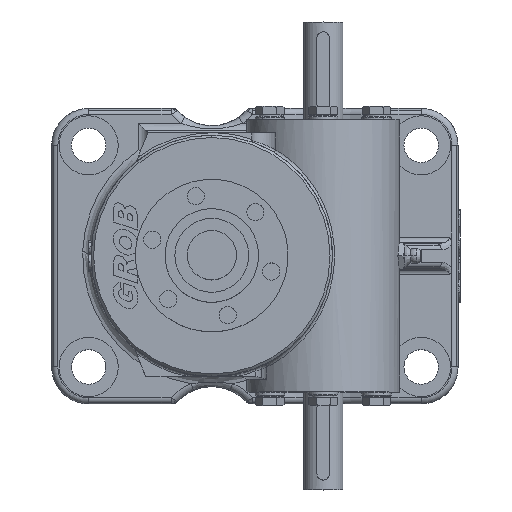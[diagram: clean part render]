
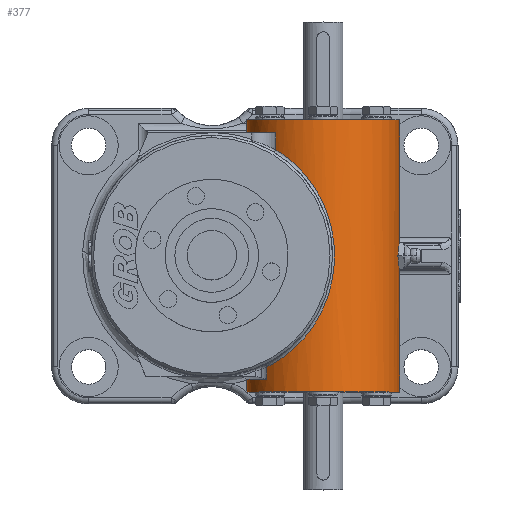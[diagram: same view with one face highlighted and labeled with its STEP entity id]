
A CAD part, top view. The second image highlights one B-rep face of the part: STEP entity #377.
In plain terms, the highlighted cylindrical face has radius 31 mm (diameter 62 mm), a partial arc.
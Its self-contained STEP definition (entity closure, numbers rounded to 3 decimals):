
#377=ADVANCED_FACE('',(#1383),#1384,.T.);
#1383=FACE_OUTER_BOUND('',#3297,.T.);
#1384=CYLINDRICAL_SURFACE('',#3298,31.0);
#3297=EDGE_LOOP('',(#7679,#7680,#7681,#7682,#7683,#7684,#7685,#7686,#7687,#7688,#7689,#7690,#7691,#7692,#7693,#7694,#7695,#7696,#7697));
#3298=AXIS2_PLACEMENT_3D('',#7698,#7699,#7700);
#7679=ORIENTED_EDGE('',*,*,#11177,.T.);
#7680=ORIENTED_EDGE('',*,*,#11616,.T.);
#7681=ORIENTED_EDGE('',*,*,#11609,.T.);
#7682=ORIENTED_EDGE('',*,*,#11342,.T.);
#7683=ORIENTED_EDGE('',*,*,#11608,.T.);
#7684=ORIENTED_EDGE('',*,*,#11603,.T.);
#7685=ORIENTED_EDGE('',*,*,#11627,.T.);
#7686=ORIENTED_EDGE('',*,*,#11196,.T.);
#7687=ORIENTED_EDGE('',*,*,#11496,.T.);
#7688=ORIENTED_EDGE('',*,*,#11493,.T.);
#7689=ORIENTED_EDGE('',*,*,#11192,.T.);
#7690=ORIENTED_EDGE('',*,*,#11825,.F.);
#7691=ORIENTED_EDGE('',*,*,#11862,.F.);
#7692=ORIENTED_EDGE('',*,*,#11863,.F.);
#7693=ORIENTED_EDGE('',*,*,#11137,.F.);
#7694=ORIENTED_EDGE('',*,*,#11864,.F.);
#7695=ORIENTED_EDGE('',*,*,#11181,.T.);
#7696=ORIENTED_EDGE('',*,*,#11505,.T.);
#7697=ORIENTED_EDGE('',*,*,#11502,.T.);
#7698=CARTESIAN_POINT('',(45.22,0.,45.0));
#7699=DIRECTION('',(0.,-1.0,0.));
#7700=DIRECTION('',(1.0,0.,0.));
#11137=EDGE_CURVE('',#13200,#13202,#13203,.T.);
#11177=EDGE_CURVE('',#13281,#13282,#13283,.T.);
#11181=EDGE_CURVE('',#13290,#13288,#13291,.T.);
#11192=EDGE_CURVE('',#13311,#13309,#13312,.T.);
#11196=EDGE_CURVE('',#13319,#13317,#13320,.T.);
#11342=EDGE_CURVE('',#13596,#13593,#13597,.T.);
#11493=EDGE_CURVE('',#13876,#13311,#13877,.T.);
#11496=EDGE_CURVE('',#13317,#13876,#13880,.T.);
#11502=EDGE_CURVE('',#13886,#13281,#13887,.T.);
#11505=EDGE_CURVE('',#13288,#13886,#13890,.T.);
#11603=EDGE_CURVE('',#14044,#14045,#14046,.T.);
#11608=EDGE_CURVE('',#13593,#14044,#14052,.T.);
#11609=EDGE_CURVE('',#14053,#13596,#14054,.T.);
#11616=EDGE_CURVE('',#13282,#14053,#14065,.T.);
#11627=EDGE_CURVE('',#14045,#13319,#14078,.T.);
#11825=EDGE_CURVE('',#14360,#13309,#14361,.T.);
#11862=EDGE_CURVE('',#14421,#14360,#14422,.T.);
#11863=EDGE_CURVE('',#13202,#14421,#14423,.T.);
#11864=EDGE_CURVE('',#13290,#13200,#14424,.T.);
#13200=VERTEX_POINT('',#16674);
#13202=VERTEX_POINT('',#16685);
#13203=LINE('',#16686,#16687);
#13281=VERTEX_POINT('',#16840);
#13282=VERTEX_POINT('',#16841);
#13283=LINE('',#16842,#16843);
#13288=VERTEX_POINT('',#16848);
#13290=VERTEX_POINT('',#16850);
#13291=LINE('',#16851,#16852);
#13309=VERTEX_POINT('',#16878);
#13311=VERTEX_POINT('',#16880);
#13312=LINE('',#16881,#16882);
#13317=VERTEX_POINT('',#16887);
#13319=VERTEX_POINT('',#16889);
#13320=LINE('',#16890,#16891);
#13593=VERTEX_POINT('',#17370);
#13596=VERTEX_POINT('',#17374);
#13597=B_SPLINE_CURVE_WITH_KNOTS('',3,(#17375,#17376,#17377,#17378,#17379,#17380),.UNSPECIFIED.,.F.,.F.,(4,2,4),(1.992,2.026,2.06),.UNSPECIFIED.);
#13876=VERTEX_POINT('',#18032);
#13877=CIRCLE('',#18033,31.0);
#13880=CIRCLE('',#18036,31.0);
#13886=VERTEX_POINT('',#18042);
#13887=CIRCLE('',#18043,31.0);
#13890=CIRCLE('',#18046,31.0);
#14044=VERTEX_POINT('',#18597);
#14045=VERTEX_POINT('',#18598);
#14046=ELLIPSE('',#18599,62.0,31.0);
#14052=B_SPLINE_CURVE_WITH_KNOTS('',3,(#18625,#18626,#18627,#18628,#18629,#18630),.UNSPECIFIED.,.F.,.F.,(4,2,4),(1.992,2.026,2.06),.UNSPECIFIED.);
#14053=VERTEX_POINT('',#18631);
#14054=ELLIPSE('',#18632,62.,31.0);
#14065=CIRCLE('',#18681,31.0);
#14078=CIRCLE('',#18748,31.0);
#14360=VERTEX_POINT('',#19644);
#14361=CIRCLE('',#19645,31.0);
#14421=VERTEX_POINT('',#19757);
#14422=LINE('',#19758,#19759);
#14423=B_SPLINE_CURVE_WITH_KNOTS('',3,(#19760,#19761,#19762,#19763,#19764,#19765,#19766,#19767,#19768,#19769,#19770,#19771,#19772,#19773,#19774,#19775),.UNSPECIFIED.,.F.,.F.,(4,1,1,1,1,1,1,1,1,1,1,1,1,4),(0.,0.796,1.591,3.182,4.243,4.773,5.834,6.364,7.955,8.353,9.547,10.342,10.541,11.138),.UNSPECIFIED.);
#14424=CIRCLE('',#19776,31.0);
#16674=CARTESIAN_POINT('',(22.367,-50.0,65.946));
#16685=CARTESIAN_POINT('',(22.367,-45.079,65.946));
#16686=CARTESIAN_POINT('',(22.367,-50.0,65.946));
#16687=VECTOR('',#22375,0.492);
#16840=CARTESIAN_POINT('',(76.22,-55.25,45.0));
#16841=CARTESIAN_POINT('',(76.22,-5.5,45.0));
#16842=CARTESIAN_POINT('',(76.22,0.,45.0));
#16843=VECTOR('',#22431,1.0);
#16848=CARTESIAN_POINT('',(14.22,-55.25,45.));
#16850=CARTESIAN_POINT('',(14.22,-50.0,45.));
#16851=CARTESIAN_POINT('',(14.22,0.,45.0));
#16852=VECTOR('',#22441,1.0);
#16878=CARTESIAN_POINT('',(14.22,50.0,45.0));
#16880=CARTESIAN_POINT('',(14.22,55.25,45.0));
#16881=CARTESIAN_POINT('',(14.22,0.,45.0));
#16882=VECTOR('',#22461,1.0);
#16887=CARTESIAN_POINT('',(76.22,55.25,45.0));
#16889=CARTESIAN_POINT('',(76.22,5.5,45.0));
#16890=CARTESIAN_POINT('',(76.22,0.,45.0));
#16891=VECTOR('',#22471,1.0);
#17370=CARTESIAN_POINT('',(75.602,0.,51.161));
#17374=CARTESIAN_POINT('',(75.603,-0.341,51.154));
#17375=CARTESIAN_POINT('',(75.603,-0.341,51.154));
#17376=CARTESIAN_POINT('',(75.602,-0.226,51.159));
#17377=CARTESIAN_POINT('',(75.602,-0.113,51.161));
#17378=CARTESIAN_POINT('',(75.602,0.113,51.161));
#17379=CARTESIAN_POINT('',(75.602,0.226,51.159));
#17380=CARTESIAN_POINT('',(75.603,0.341,51.154));
#18032=CARTESIAN_POINT('',(45.22,55.25,76.0));
#18033=AXIS2_PLACEMENT_3D('',#22993,#22994,#22995);
#18036=AXIS2_PLACEMENT_3D('',#23002,#23003,#23004);
#18042=CARTESIAN_POINT('',(45.22,-55.25,76.0));
#18043=AXIS2_PLACEMENT_3D('',#23020,#23021,#23022);
#18046=AXIS2_PLACEMENT_3D('',#23029,#23030,#23031);
#18597=CARTESIAN_POINT('',(75.603,0.341,51.154));
#18598=CARTESIAN_POINT('',(76.057,5.5,48.175));
#18599=AXIS2_PLACEMENT_3D('',#23190,#23191,#23192);
#18625=CARTESIAN_POINT('',(75.603,-0.341,51.154));
#18626=CARTESIAN_POINT('',(75.602,-0.226,51.159));
#18627=CARTESIAN_POINT('',(75.602,-0.113,51.161));
#18628=CARTESIAN_POINT('',(75.602,0.113,51.161));
#18629=CARTESIAN_POINT('',(75.602,0.226,51.159));
#18630=CARTESIAN_POINT('',(75.603,0.341,51.154));
#18631=CARTESIAN_POINT('',(76.057,-5.5,48.175));
#18632=AXIS2_PLACEMENT_3D('',#23195,#23196,#23197);
#18681=AXIS2_PLACEMENT_3D('',#23200,#23201,#23202);
#18748=AXIS2_PLACEMENT_3D('',#23215,#23216,#23217);
#19644=CARTESIAN_POINT('',(25.95,50.0,69.283));
#19645=AXIS2_PLACEMENT_3D('',#23481,#23482,#23483);
#19757=CARTESIAN_POINT('',(25.95,43.11,69.283));
#19758=CARTESIAN_POINT('',(25.95,43.11,69.283));
#19759=VECTOR('',#23543,0.689);
#19760=CARTESIAN_POINT('',(22.367,-45.079,65.946));
#19761=CARTESIAN_POINT('',(24.018,-44.262,67.747));
#19762=CARTESIAN_POINT('',(27.694,-42.192,70.886));
#19763=CARTESIAN_POINT('',(35.413,-36.267,74.902));
#19764=CARTESIAN_POINT('',(42.717,-27.277,76.12));
#19765=CARTESIAN_POINT('',(46.994,-17.548,75.978));
#19766=CARTESIAN_POINT('',(49.293,-8.933,75.747));
#19767=CARTESIAN_POINT('',(50.03,-1.873,75.624));
#19768=CARTESIAN_POINT('',(49.494,8.868,75.701));
#19769=CARTESIAN_POINT('',(47.322,17.068,76.026));
#19770=CARTESIAN_POINT('',(42.669,26.647,75.974));
#19771=CARTESIAN_POINT('',(38.098,33.148,75.424));
#19772=CARTESIAN_POINT('',(33.015,38.001,73.602));
#19773=CARTESIAN_POINT('',(29.231,40.991,71.629));
#19774=CARTESIAN_POINT('',(27.321,42.279,70.371));
#19775=CARTESIAN_POINT('',(25.95,43.11,69.283));
#19776=AXIS2_PLACEMENT_3D('',#23544,#23545,#23546);
#22375=DIRECTION('',(0.,1.0,0.));
#22431=DIRECTION('',(0.,1.0,0.));
#22441=DIRECTION('',(0.,-1.0,0.));
#22461=DIRECTION('',(0.,-1.0,0.));
#22471=DIRECTION('',(0.,1.0,0.));
#22993=CARTESIAN_POINT('',(45.22,55.25,45.0));
#22994=DIRECTION('',(0.,-1.0,0.));
#22995=DIRECTION('',(0.866,0.,-0.5));
#23002=CARTESIAN_POINT('',(45.22,55.25,45.0));
#23003=DIRECTION('',(0.,-1.0,0.));
#23004=DIRECTION('',(0.866,0.,-0.5));
#23020=CARTESIAN_POINT('',(45.22,-55.25,45.0));
#23021=DIRECTION('',(0.,1.0,0.));
#23022=DIRECTION('',(0.866,0.,-0.5));
#23029=CARTESIAN_POINT('',(45.22,-55.25,45.0));
#23030=DIRECTION('',(0.,1.0,0.));
#23031=DIRECTION('',(0.866,0.,-0.5));
#23190=CARTESIAN_POINT('',(45.22,11.0,45.0));
#23191=DIRECTION('',(0.,0.5,0.866));
#23192=DIRECTION('',(0.,0.866,-0.5));
#23195=CARTESIAN_POINT('',(45.22,-11.0,45.0));
#23196=DIRECTION('',(0.,-0.5,0.866));
#23197=DIRECTION('',(0.,-0.866,-0.5));
#23200=CARTESIAN_POINT('',(45.22,-5.5,45.0));
#23201=DIRECTION('',(0.,-1.0,0.));
#23202=DIRECTION('',(1.0,0.,0.));
#23215=CARTESIAN_POINT('',(45.22,5.5,45.0));
#23216=DIRECTION('',(0.,1.0,0.));
#23217=DIRECTION('',(1.0,0.,0.));
#23481=CARTESIAN_POINT('',(45.22,50.0,45.0));
#23482=DIRECTION('',(0.,-1.0,0.));
#23483=DIRECTION('',(0.866,0.,-0.5));
#23543=DIRECTION('',(0.,1.0,0.));
#23544=CARTESIAN_POINT('',(45.22,-50.0,45.0));
#23545=DIRECTION('',(0.,1.0,0.));
#23546=DIRECTION('',(1.0,0.,0.));
